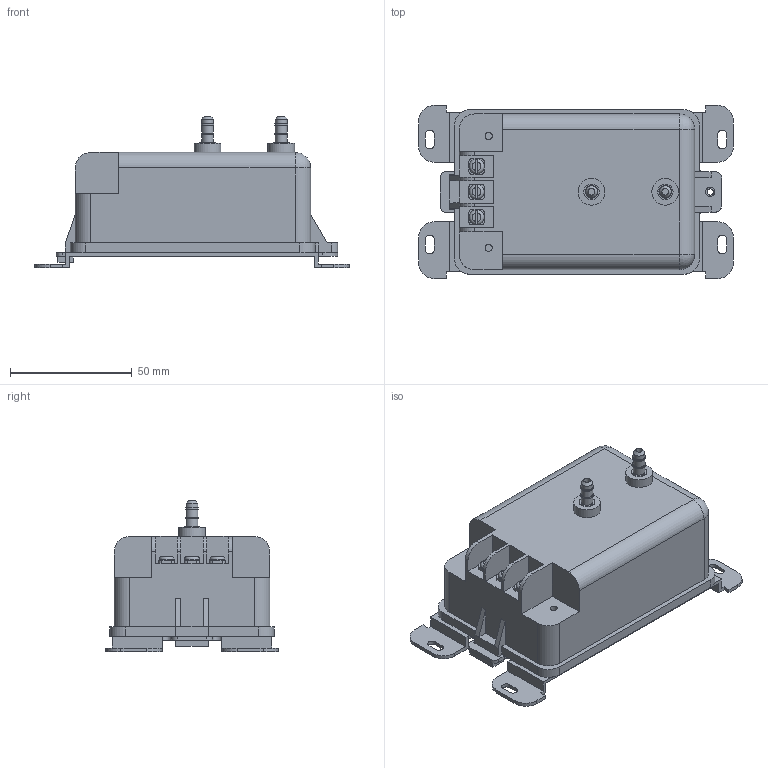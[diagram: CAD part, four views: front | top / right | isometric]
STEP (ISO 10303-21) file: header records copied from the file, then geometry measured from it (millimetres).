
FILE_DESCRIPTION(/* description */ (''),/* implementation_level */ '2;1');
FILE_NAME(/* name */ 'D:\MCS - SERVER ORGANIZATION\Drawings - Mcs Hardware\Boards & Electrical Parts\MCS-STATIC-50-VDC\MCS-STATIC-50-VDC.stp',/* time_stamp */ '2015-10-06T15:33:48-04:00',/* author */ ('Ian L Mitchell'),/* organization */ (''),/* preprocessor_version */ 'ST-DEVELOPER v15.2',/* originating_system */ 'Autodesk Inventor 2014',/* authorisation */ '');
FILE_SCHEMA (('AUTOMOTIVE_DESIGN { 1 0 10303 214 3 1 1 }'));
Length unit declared in the file: inch
Products named in the file (1): MCS-STATIC-50-VDC
Bounding box: 129.03 x 70.99 x 62.17 mm (x, y, z)
Volume: 67505.5 mm3; surface area: 56229.9 mm2
Topology: 7 solids, 7 shells, 260 faces, 683 edges, 447 vertices
Faces by surface type: plane 166, cylinder 85, sphere 4, torus 3, cone 2
Full cylindrical faces by diameter (mm): 2.54 x1, 2.794 x2, 2.921 x2, 3.81 x1, 4.826 x6, 5.207 x4, 6.096 x3, 6.35 x2, 10.985 x1, 10.986 x1
Entity records: 7872 total; most frequent: CARTESIAN_POINT 1421, DIRECTION 1332, ORIENTED_EDGE 1280, EDGE_CURVE 640, LINE 446, VECTOR 446, AXIS2_PLACEMENT_3D 443, VERTEX_POINT 436
